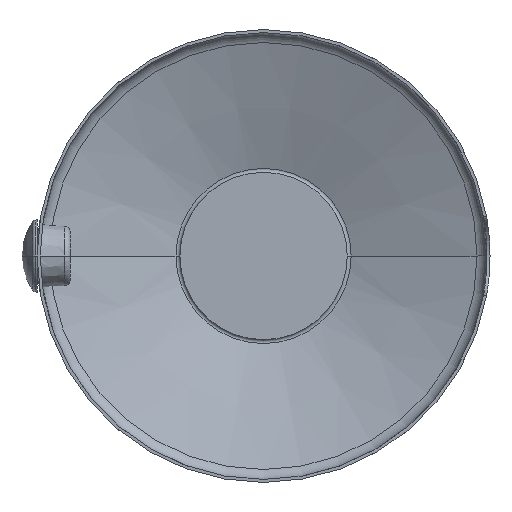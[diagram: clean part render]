
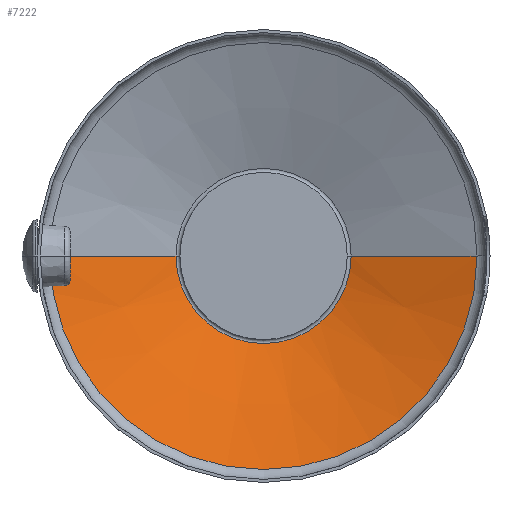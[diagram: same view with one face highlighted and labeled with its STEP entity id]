
A CAD part, left-side view. The second image highlights one B-rep face of the part: STEP entity #7222.
In plain terms, the highlighted conical face has half-angle 70 degrees and reference radius 24.926 mm.
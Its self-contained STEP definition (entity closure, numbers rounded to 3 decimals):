
#6736=CARTESIAN_POINT('',(-20.672,0.,0.));
#6737=DIRECTION('',(-1.,0.,0.));
#6738=DIRECTION('',(0.,1.,0.));
#6739=AXIS2_PLACEMENT_3D('',#6736,#6737,#6738);
#6741=DIRECTION('',(-0.342,0.94,0.));
#6742=VECTOR('',#6741,22.197);
#6743=CARTESIAN_POINT('',(-20.672,14.497,0.));
#6744=LINE('',#6743,#6742);
#6745=DIRECTION('',(-0.342,-0.94,0.));
#6746=VECTOR('',#6745,22.197);
#6747=CARTESIAN_POINT('',(-20.672,-14.497,0.));
#6748=LINE('',#6747,#6746);
#6769=CARTESIAN_POINT('',(-28.263,0.,0.));
#6770=DIRECTION('',(-1.,0.,0.));
#6771=DIRECTION('',(0.,1.,0.));
#6772=AXIS2_PLACEMENT_3D('',#6769,#6770,#6771);
#7130=CARTESIAN_POINT('',(-20.672,14.497,0.));
#7131=VERTEX_POINT('',#7130);
#7132=CARTESIAN_POINT('',(-28.263,35.355,0.));
#7133=VERTEX_POINT('',#7132);
#7136=CARTESIAN_POINT('',(-20.672,-14.497,0.));
#7137=VERTEX_POINT('',#7136);
#7138=CARTESIAN_POINT('',(-28.263,-35.355,0.));
#7139=VERTEX_POINT('',#7138);
#7208=CARTESIAN_POINT('',(-24.468,0.,0.));
#7209=DIRECTION('',(-1.,0.,0.));
#7210=DIRECTION('',(0.,-1.,0.));
#7211=AXIS2_PLACEMENT_3D('',#7208,#7209,#7210);
#7212=CONICAL_SURFACE('',#7211,24.926,70.);
#7214=ORIENTED_EDGE('',*,*,#7213,.F.);
#7215=ORIENTED_EDGE('',*,*,#7203,.T.);
#7217=ORIENTED_EDGE('',*,*,#7216,.T.);
#7219=ORIENTED_EDGE('',*,*,#7218,.F.);
#7220=EDGE_LOOP('',(#7214,#7215,#7217,#7219));
#7221=FACE_OUTER_BOUND('',#7220,.F.);
#7222=ADVANCED_FACE('',(#7221),#7212,.F.);
#6740=CIRCLE('',#6739,14.497);
#6773=CIRCLE('',#6772,35.355);
#7203=EDGE_CURVE('',#7131,#7137,#6740,.T.);
#7213=EDGE_CURVE('',#7131,#7133,#6744,.T.);
#7216=EDGE_CURVE('',#7137,#7139,#6748,.T.);
#7218=EDGE_CURVE('',#7133,#7139,#6773,.T.);
